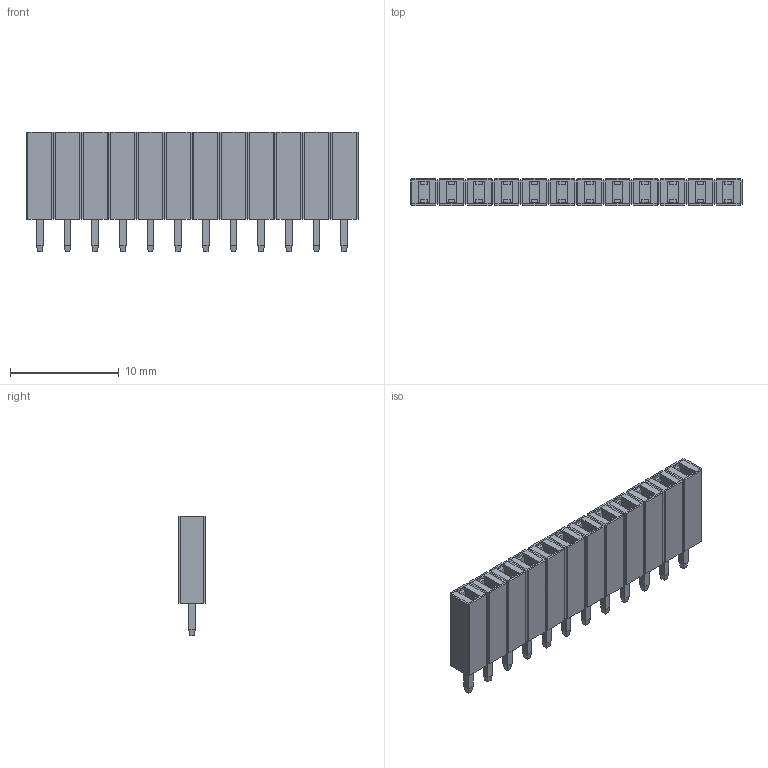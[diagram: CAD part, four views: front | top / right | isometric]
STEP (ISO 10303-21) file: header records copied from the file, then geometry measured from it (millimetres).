
FILE_DESCRIPTION(('FreeCAD Model'),'2;1');
FILE_NAME('Open CASCADE Shape Model','2021-06-28T20:09:38',('Author'),( ''),'Open CASCADE STEP processor 7.5','FreeCAD','Unknown');
FILE_SCHEMA(('AUTOMOTIVE_DESIGN { 1 0 10303 214 1 1 1 1 }'));
Length unit declared in the file: millimetre
Products named in the file (1): Group012
Bounding box: 30.48 x 2.54 x 11 mm (x, y, z)
Volume: 483.8 mm3; surface area: 1414.8 mm2
Topology: 1 solids, 1 shells, 506 faces, 1156 edges, 676 vertices
Faces by surface type: plane 506
Entity records: 31050 total; most frequent: CARTESIAN_POINT 4987, DIRECTION 4146, LINE 3132, VECTOR 3132, ORIENTED_EDGE 2312, PCURVE 2312, DEFINITIONAL_REPRESENTATION 2312, EDGE_CURVE 1156
